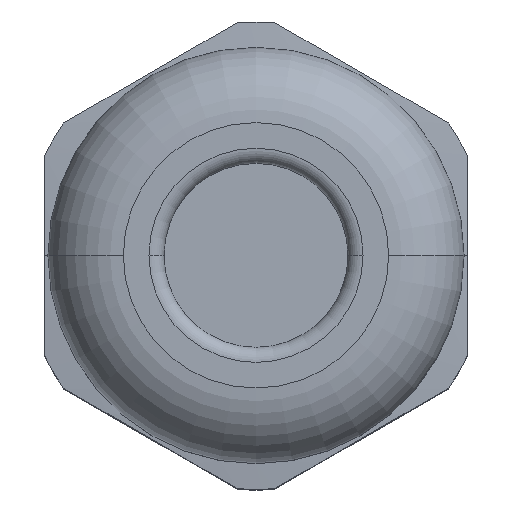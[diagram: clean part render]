
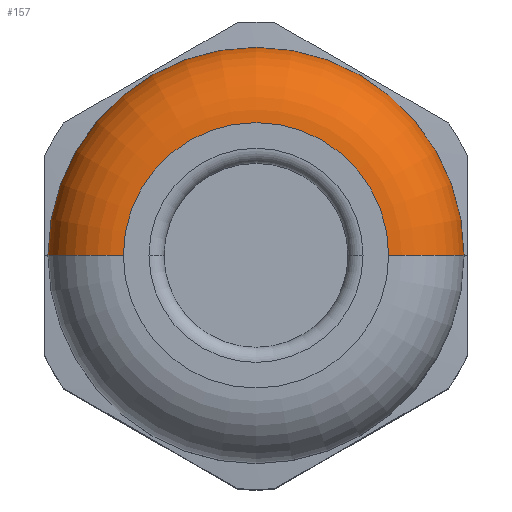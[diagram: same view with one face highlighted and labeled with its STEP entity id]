
A CAD part, top view. The second image highlights one B-rep face of the part: STEP entity #157.
In plain terms, the highlighted toroidal (fillet/blend) face has major radius 4.4 mm and minor radius 2.5 mm.
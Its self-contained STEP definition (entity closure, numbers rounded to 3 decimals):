
#135 = ORIENTED_EDGE ( 'NONE', *, *, #137, .F. ) ;
#136 = VERTEX_POINT ( 'NONE', #1299 ) ;
#137 = EDGE_CURVE ( 'NONE', #138, #141, #1298, .T. ) ;
#138 = VERTEX_POINT ( 'NONE', #1293 ) ;
#139 = EDGE_CURVE ( 'NONE', #142, #138, #1407, .T. ) ;
#140 = EDGE_CURVE ( 'NONE', #142, #136, #1402, .T. ) ;
#141 = VERTEX_POINT ( 'NONE', #1397 ) ;
#142 = VERTEX_POINT ( 'NONE', #1396 ) ;
#143 = ORIENTED_EDGE ( 'NONE', *, *, #139, .F. ) ;
#144 = ORIENTED_EDGE ( 'NONE', *, *, #145, .T. ) ;
#145 = EDGE_CURVE ( 'NONE', #136, #141, #1395, .T. ) ;
#147 = ORIENTED_EDGE ( 'NONE', *, *, #140, .T. ) ;
#157 = ADVANCED_FACE ( 'NONE', ( #1243 ), #1242, .T. ) ;
#298 = EDGE_LOOP ( 'NONE', ( #147, #144, #135, #143 ) ) ;
#1238 = DIRECTION ( 'NONE',  ( -1., 0., 0. ) ) ;
#1239 = DIRECTION ( 'NONE',  ( 0., 0., -1. ) ) ;
#1240 = CARTESIAN_POINT ( 'NONE',  ( 0., 0., 22.5 ) ) ;
#1241 = AXIS2_PLACEMENT_3D ( 'NONE', #1240, #1239, #1238 ) ;
#1242 = TOROIDAL_SURFACE ( 'NONE', #1241, 4.4, 2.5 ) ;
#1243 = FACE_OUTER_BOUND ( 'NONE', #298, .T. ) ;
#1293 = CARTESIAN_POINT ( 'NONE',  ( -6.9, 0., 22.5 ) ) ;
#1294 = DIRECTION ( 'NONE',  ( -1., 0., 0. ) ) ;
#1295 = DIRECTION ( 'NONE',  ( 0., 0., -1. ) ) ;
#1296 = CARTESIAN_POINT ( 'NONE',  ( 0., 0., 22.5 ) ) ;
#1297 = AXIS2_PLACEMENT_3D ( 'NONE', #1296, #1295, #1294 ) ;
#1298 = CIRCLE ( 'NONE', #1297, 6.9 ) ;
#1299 = CARTESIAN_POINT ( 'NONE',  ( 4.4, 0., 25. ) ) ;
#1391 = DIRECTION ( 'NONE',  ( -1., 0., 0. ) ) ;
#1392 = DIRECTION ( 'NONE',  ( 0., 1., 0. ) ) ;
#1393 = CARTESIAN_POINT ( 'NONE',  ( 4.4, 0., 22.5 ) ) ;
#1394 = AXIS2_PLACEMENT_3D ( 'NONE', #1393, #1392, #1391 ) ;
#1395 = CIRCLE ( 'NONE', #1394, 2.5 ) ;
#1396 = CARTESIAN_POINT ( 'NONE',  ( -4.4, 0., 25. ) ) ;
#1397 = CARTESIAN_POINT ( 'NONE',  ( 6.9, 0., 22.5 ) ) ;
#1398 = DIRECTION ( 'NONE',  ( -1., 0., 0. ) ) ;
#1399 = DIRECTION ( 'NONE',  ( 0., 0., -1. ) ) ;
#1400 = CARTESIAN_POINT ( 'NONE',  ( 0., 0., 25. ) ) ;
#1401 = AXIS2_PLACEMENT_3D ( 'NONE', #1400, #1399, #1398 ) ;
#1402 = CIRCLE ( 'NONE', #1401, 4.4 ) ;
#1403 = DIRECTION ( 'NONE',  ( 0., 0., -1. ) ) ;
#1404 = DIRECTION ( 'NONE',  ( 0., -1., 0. ) ) ;
#1405 = CARTESIAN_POINT ( 'NONE',  ( -4.4, 0., 22.5 ) ) ;
#1406 = AXIS2_PLACEMENT_3D ( 'NONE', #1405, #1404, #1403 ) ;
#1407 = CIRCLE ( 'NONE', #1406, 2.5 ) ;
